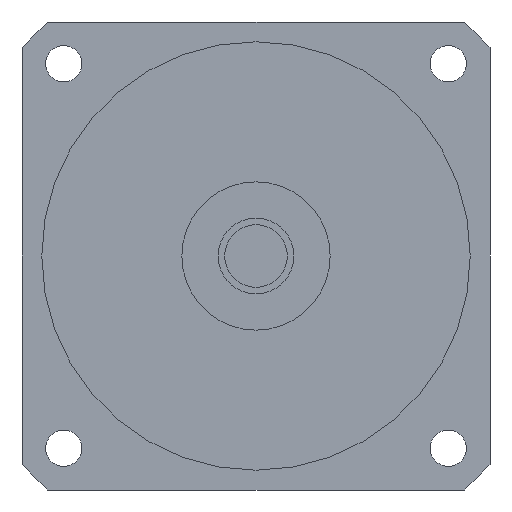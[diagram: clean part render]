
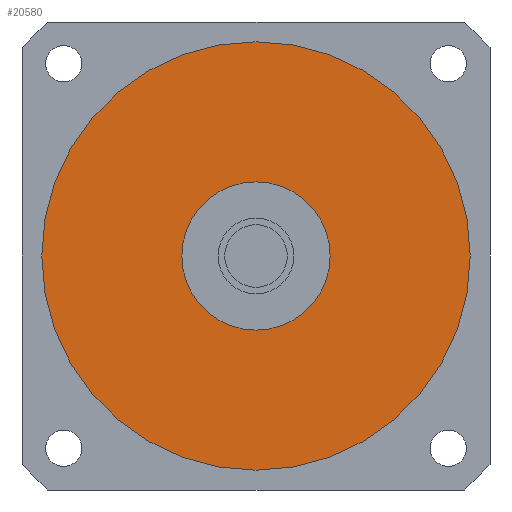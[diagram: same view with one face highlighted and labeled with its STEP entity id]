
A CAD part, left-side view. The second image highlights one B-rep face of the part: STEP entity #20580.
In plain terms, the highlighted planar face has unit normal (-1, 0, 0) as drawn and (0, 0, -1) by its records, which use the part's own axes.
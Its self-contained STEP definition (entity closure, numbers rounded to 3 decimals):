
#20060=CARTESIAN_POINT('',(-65.,0.,-38.5));
#20070=VERTEX_POINT('',#20060);
#20150=CARTESIAN_POINT('',(65.,0.,-38.5));
#20160=VERTEX_POINT('',#20150);
#20190=CARTESIAN_POINT('',(0.,0.,
-38.5));
#20200=DIRECTION('',(0.,0.,1.));
#20210=DIRECTION('',(1.,0.,0.));
#20220=AXIS2_PLACEMENT_3D('',#20190,#20200,#20210);
#20230=CIRCLE('',#20220,65.);
#20240=EDGE_CURVE('',#20070,#20160,#20230,.T.);
#20290=CARTESIAN_POINT('',(0.,0.,
-38.5));
#20300=DIRECTION('',(0.,0.,1.));
#20310=DIRECTION('',(-1.,0.,0.));
#20320=AXIS2_PLACEMENT_3D('',#20290,#20300,#20310);
#20330=PLANE('',#20320);
#20340=CARTESIAN_POINT('',(0.,0.,
-38.5));
#20350=DIRECTION('',(0.,0.,1.));
#20360=DIRECTION('',(0.,1.,0.));
#20370=AXIS2_PLACEMENT_3D('',#20340,#20350,#20360);
#20380=CIRCLE('',#20370,22.5);
#20390=CARTESIAN_POINT('',(-22.5,0.,-38.5));
#20400=VERTEX_POINT('',#20390);
#20410=CARTESIAN_POINT('',(22.5,0.,-38.5));
#20420=VERTEX_POINT('',#20410);
#20430=EDGE_CURVE('',#20400,#20420,#20380,.T.);
#20440=ORIENTED_EDGE('',*,*,#20430,.T.);
#20450=CARTESIAN_POINT('',(0.,22.5,-38.5));
#20460=VERTEX_POINT('',#20450);
#20470=EDGE_CURVE('',#20460,#20400,#20380,.T.);
#20480=ORIENTED_EDGE('',*,*,#20470,.T.);
#20490=EDGE_CURVE('',#20420,#20460,#20380,.T.);
#20500=ORIENTED_EDGE('',*,*,#20490,.T.);
#20510=EDGE_LOOP('',(#20500,#20480,#20440));
#20520=FACE_BOUND('',#20510,.T.);
#20530=EDGE_CURVE('',#20160,#20070,#20230,.T.);
#20540=ORIENTED_EDGE('',*,*,#20530,.F.);
#20550=ORIENTED_EDGE('',*,*,#20240,.F.);
#20560=EDGE_LOOP('',(#20550,#20540));
#20570=FACE_OUTER_BOUND('',#20560,.T.);
#20580=ADVANCED_FACE('',(#20520,#20570),#20330,.F.);
